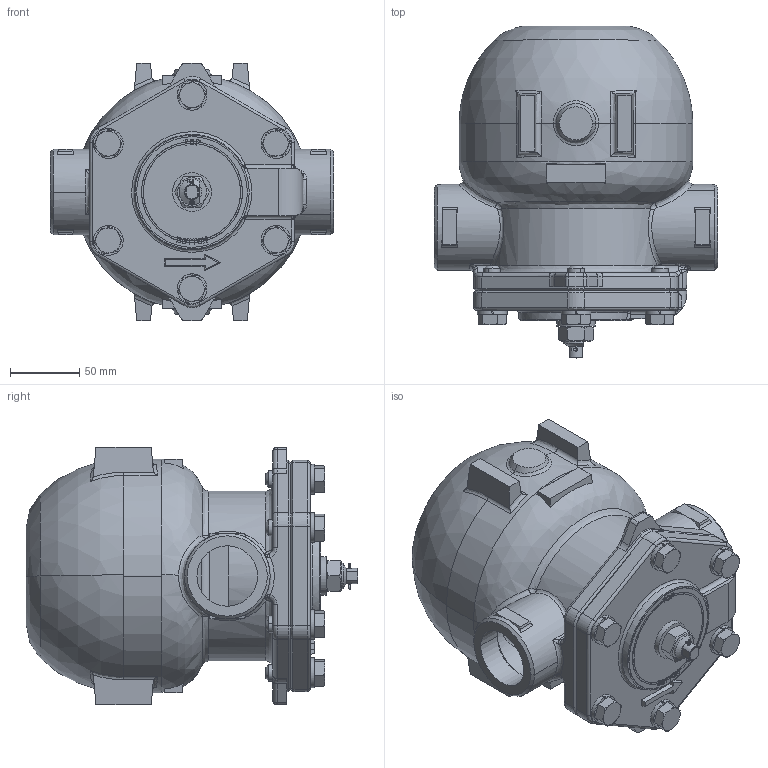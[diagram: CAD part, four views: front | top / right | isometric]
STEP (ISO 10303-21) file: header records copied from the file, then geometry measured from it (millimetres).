
FILE_DESCRIPTION( (''), '2;1');
FILE_NAME ('PC1027.12188.TSF-11S JISRc 40A_20120.stp','2025-07-31T09:35:11',(''),(''),'spGate 20.6.3 (****-****-****-****)','','');
FILE_SCHEMA (('AUTOMOTIVE_DESIGN'));
Length unit declared in the file: millimetre
Products named in the file (11): Assembly; 3D_@TSF-10_@_____s__; 3D_@TSF-10_@_Z_p_i_b_g; 3D_@TSF-10_@_J___[; 3D_@TSF-11_@________; ____; _R_b_N____; TSF-11S JISRc 40A_M1; SSLW12; ________; 3D TSF-11S 40A 本体(加)
Assembly tree (20 placements, depth 2):
  Assembly
    3D_@TSF-10_@_____s__
    3D_@TSF-10_@_Z_p_i_b_g
    3D_@TSF-10_@_J___[
    3D_@TSF-11_@________
    ____
    _R_b_N____
    TSF-11S JISRc 40A_M1  x6
    SSLW12  x6
    ________
    3D TSF-11S 40A 本体(加)
Bounding box: 205 x 240 x 186 mm (x, y, z)
Volume: 3794604.3 mm3; surface area: 252435.5 mm2
Topology: 20 solids, 20 shells, 806 faces, 2641 edges, 1865 vertices
Faces by surface type: plane 346, bspline 244, cylinder 210, sphere 6
Entity records: 55668 total; most frequent: CARTESIAN_POINT 24781, ORIENTED_EDGE 4022, COLOUR_RGB 2677, PRESENTATION_STYLE_ASSIGNMENT 2677, STYLED_ITEM 2677, DIRECTION 2562, EDGE_CURVE 2011, DRAUGHTING_PRE_DEFINED_CURVE_FONT 2011
